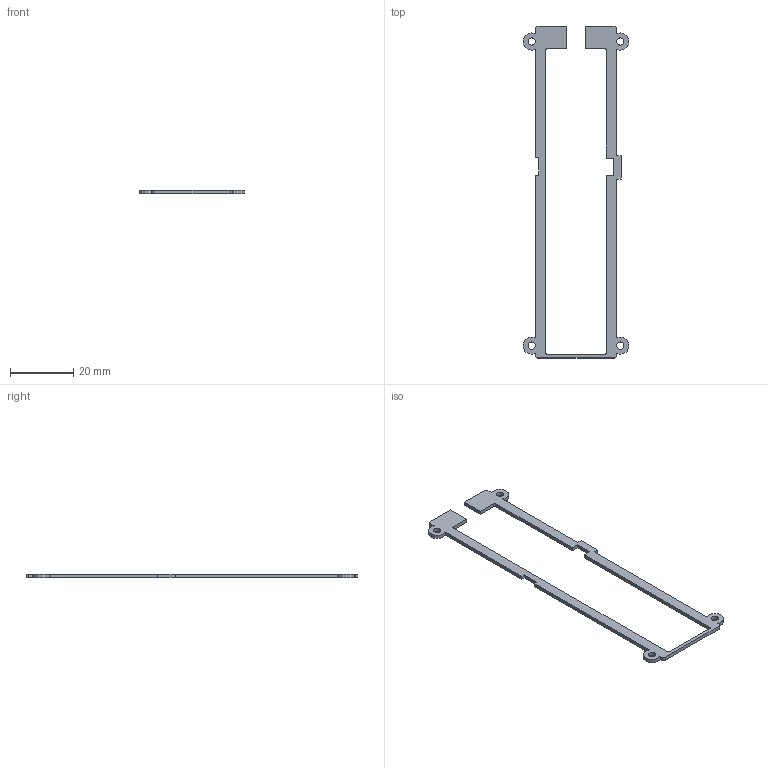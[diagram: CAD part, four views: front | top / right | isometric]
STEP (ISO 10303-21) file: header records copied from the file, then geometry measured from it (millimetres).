
FILE_DESCRIPTION(('Open CASCADE Model'),'2;1');
FILE_NAME('C27_R2_LTE_Nonmetallic_Service_Frame','2026-09-09T17:52:57',( 'Author'),('Open CASCADE'),'Open CASCADE STEP processor 7.9', 'build123d','Unknown');
FILE_SCHEMA(('AUTOMOTIVE_DESIGN { 1 0 10303 214 1 1 1 1 }'));
Length unit declared in the file: millimetre
Products named in the file (1): C27_R2_LTE_Nonmetallic_Service_Frame
Bounding box: 33.4 x 104.8 x 1.2 mm (x, y, z)
Volume: 1022.5 mm3; surface area: 2370.6 mm2
Topology: 1 solids, 1 shells, 46 faces, 132 edges, 88 vertices
Faces by surface type: plane 30, cylinder 16
Full cylindrical faces by diameter (mm): 2.3 x4
Entity records: 3242 total; most frequent: CARTESIAN_POINT 701, DIRECTION 442, LINE 270, VECTOR 270, ORIENTED_EDGE 264, PCURVE 264, DEFINITIONAL_REPRESENTATION 264, EDGE_CURVE 132
